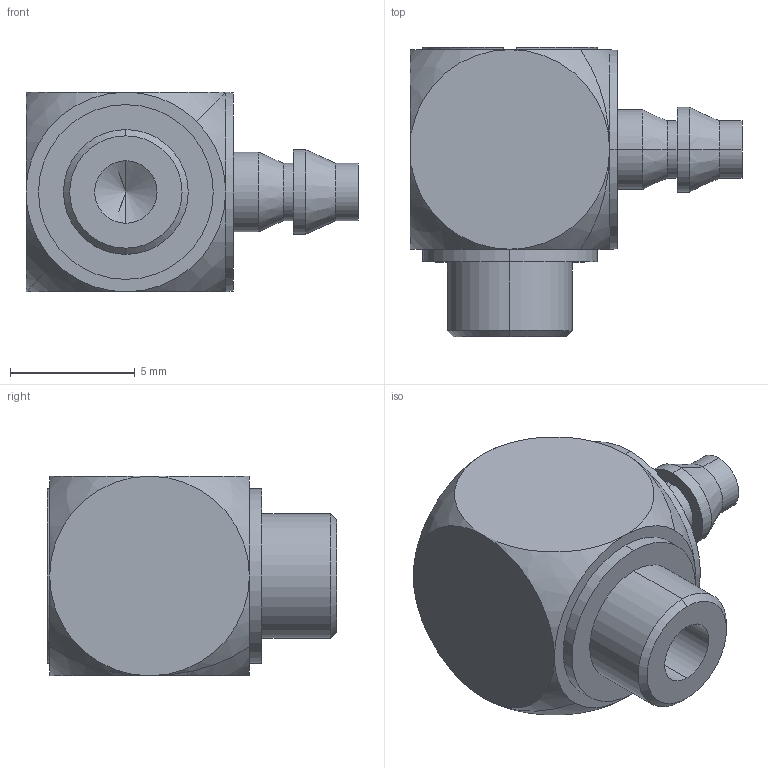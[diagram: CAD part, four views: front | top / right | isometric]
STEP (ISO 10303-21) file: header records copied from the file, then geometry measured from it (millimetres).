
FILE_DESCRIPTION (( 'STEP AP214' ), '1' );
FILE_NAME ('M-5ALU-4.step.step', '2022-12-27T06:18:03', ( '' ), ( '' ), 'SwSTEP 2.0', 'SolidWorks 2022', '' );
FILE_SCHEMA (( 'AUTOMOTIVE_DESIGN' ));
Length unit declared in the file: millimetre
Products named in the file (2): M-5ALU-4.step; M-5ALU-4.step_AL_M-5ALU-4
Assembly tree (1 placements, depth 2):
  M-5ALU-4.step
    M-5ALU-4.step_AL_M-5ALU-4
Bounding box: 13.3 x 11.6 x 8 mm (x, y, z)
Volume: 550.8 mm3; surface area: 590.5 mm2
Topology: 1 solids, 1 shells, 60 faces, 130 edges, 73 vertices
Faces by surface type: cylinder 20, plane 18, sphere 12, cone 10
Entity records: 1721 total; most frequent: DIRECTION 324, CARTESIAN_POINT 293, ORIENTED_EDGE 248, AXIS2_PLACEMENT_3D 138, EDGE_CURVE 124, CIRCLE 74, VERTEX_POINT 73, EDGE_LOOP 69
